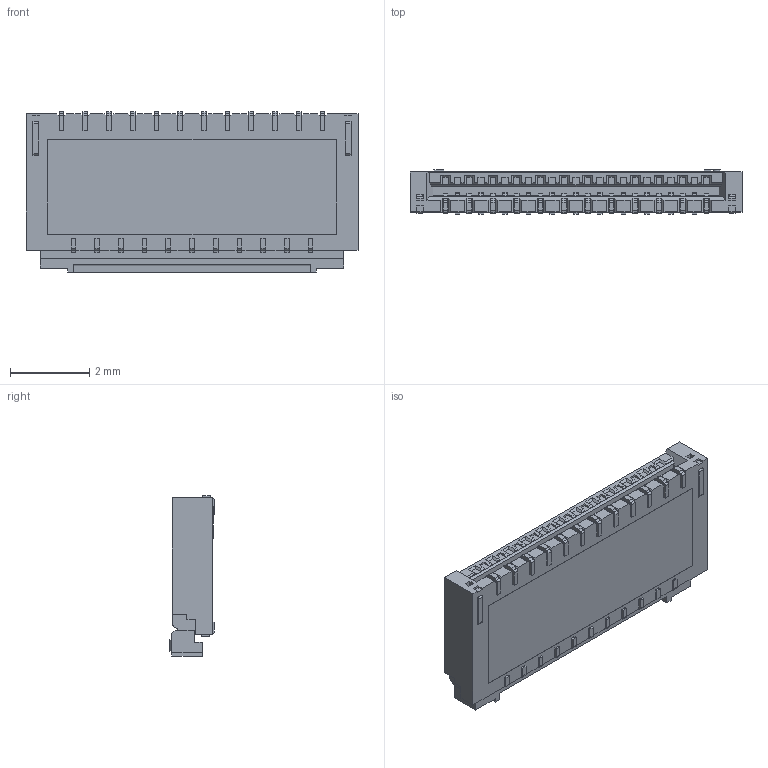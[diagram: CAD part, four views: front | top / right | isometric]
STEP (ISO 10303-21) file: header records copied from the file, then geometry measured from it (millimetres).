
FILE_DESCRIPTION((''),'2;1');
FILE_NAME('S-51515-023XX-XXX','2011-12-28T',('jameslen'),(''),'PRO/ENGINEER BY PARAMETRIC TECHNOLOGY CORPORATION, 2007450','PRO/ENGINEER BY PARAMETRIC TECHNOLOGY CORPORATION, 2007450','');
FILE_SCHEMA(('AUTOMOTIVE_DESIGN { 1 0 10303 214 1 1 1 1 }'));
Length unit declared in the file: millimetre
Products named in the file (1): S-51515-023XX-XXX
Bounding box: 8.4 x 1.12 x 4.06 mm (x, y, z)
Volume: 26.1 mm3; surface area: 151.9 mm2
Topology: 1 solids, 1 shells, 1290 faces, 4514 edges, 3178 vertices
Faces by surface type: plane 971, cylinder 319
Entity records: 53927 total; most frequent: CARTESIAN_POINT 8876, ORIENTED_EDGE 8820, DIRECTION 8148, EDGE_CURVE 4410, VECTOR 3462, LINE 3462, VERTEX_POINT 3070, AXIS2_PLACEMENT_3D 2343
